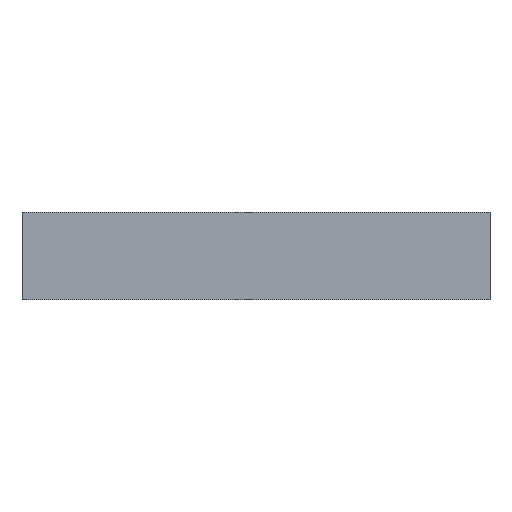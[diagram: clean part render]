
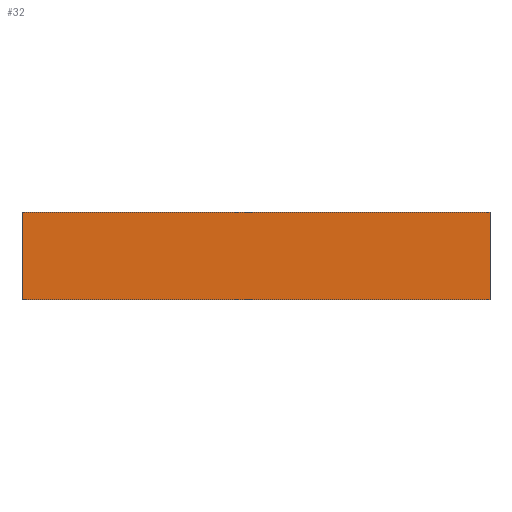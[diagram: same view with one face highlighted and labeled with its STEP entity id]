
A CAD part, front view. The second image highlights one B-rep face of the part: STEP entity #32.
In plain terms, the highlighted planar face has unit normal (0, -1, 0).
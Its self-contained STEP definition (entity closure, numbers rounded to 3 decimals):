
#32=ADVANCED_FACE('',(#46),#510,.T.);
#46=FACE_OUTER_BOUND('',#60,.T.);
#60=EDGE_LOOP('',(#82,#83,#84,#85));
#82=ORIENTED_EDGE('',*,*,#374,.T.);
#83=ORIENTED_EDGE('',*,*,#375,.T.);
#84=ORIENTED_EDGE('',*,*,#376,.T.);
#85=ORIENTED_EDGE('',*,*,#377,.T.);
#194=PCURVE('',#510,#266);
#195=PCURVE('',#510,#267);
#196=PCURVE('',#510,#268);
#197=PCURVE('',#510,#269);
#201=PCURVE('',#511,#273);
#207=PCURVE('',#513,#279);
#229=PCURVE('',#514,#301);
#238=PCURVE('',#515,#310);
#266=DEFINITIONAL_REPRESENTATION('',(#411),#1041);
#267=DEFINITIONAL_REPRESENTATION('',(#413),#1041);
#268=DEFINITIONAL_REPRESENTATION('',(#415),#1041);
#269=DEFINITIONAL_REPRESENTATION('',(#417),#1041);
#273=DEFINITIONAL_REPRESENTATION('',(#424),#1041);
#279=DEFINITIONAL_REPRESENTATION('',(#434),#1041);
#301=DEFINITIONAL_REPRESENTATION('',(#457),#1041);
#310=DEFINITIONAL_REPRESENTATION('',(#458),#1041);
#338=SURFACE_CURVE('',#410,(#194,#229),.PCURVE_S1.);
#339=SURFACE_CURVE('',#412,(#195,#201),.PCURVE_S1.);
#340=SURFACE_CURVE('',#414,(#196,#238),.PCURVE_S1.);
#341=SURFACE_CURVE('',#416,(#197,#207),.PCURVE_S1.);
#374=EDGE_CURVE('',#478,#479,#338,.T.);
#375=EDGE_CURVE('',#479,#480,#339,.T.);
#376=EDGE_CURVE('',#480,#481,#340,.T.);
#377=EDGE_CURVE('',#481,#478,#341,.T.);
#410=B_SPLINE_CURVE_WITH_KNOTS('',1,(#728,#729),.UNSPECIFIED.,.F.,.F.,(2,
2),(-142.,-108.),.UNSPECIFIED.);
#411=B_SPLINE_CURVE_WITH_KNOTS('',1,(#730,#731),.UNSPECIFIED.,.F.,.F.,(2,
2),(-142.,-108.),.UNSPECIFIED.);
#412=B_SPLINE_CURVE_WITH_KNOTS('',1,(#732,#733),.UNSPECIFIED.,.F.,.F.,(2,
2),(0.,6.),.UNSPECIFIED.);
#413=B_SPLINE_CURVE_WITH_KNOTS('',1,(#734,#735),.UNSPECIFIED.,.F.,.F.,(2,
2),(0.,6.),.UNSPECIFIED.);
#414=B_SPLINE_CURVE_WITH_KNOTS('',1,(#736,#737),.UNSPECIFIED.,.F.,.F.,(2,
2),(108.,142.),.UNSPECIFIED.);
#415=B_SPLINE_CURVE_WITH_KNOTS('',1,(#738,#739),.UNSPECIFIED.,.F.,.F.,(2,
2),(108.,142.),.UNSPECIFIED.);
#416=B_SPLINE_CURVE_WITH_KNOTS('',1,(#740,#741),.UNSPECIFIED.,.F.,.F.,(2,
2),(-6.,0.),.UNSPECIFIED.);
#417=B_SPLINE_CURVE_WITH_KNOTS('',1,(#742,#743),.UNSPECIFIED.,.F.,.F.,(2,
2),(-6.,0.),.UNSPECIFIED.);
#424=B_SPLINE_CURVE_WITH_KNOTS('',1,(#756,#757),.UNSPECIFIED.,.F.,.F.,(2,
2),(0.,6.),.UNSPECIFIED.);
#434=B_SPLINE_CURVE_WITH_KNOTS('',1,(#776,#777),.UNSPECIFIED.,.F.,.F.,(2,
2),(-6.,0.),.UNSPECIFIED.);
#457=B_SPLINE_CURVE_WITH_KNOTS('',1,(#878,#879),.UNSPECIFIED.,.F.,.F.,(2,
2),(-142.,-108.),.UNSPECIFIED.);
#458=B_SPLINE_CURVE_WITH_KNOTS('',1,(#940,#941),.UNSPECIFIED.,.F.,.F.,(2,
2),(108.,142.),.UNSPECIFIED.);
#478=VERTEX_POINT('',#704);
#479=VERTEX_POINT('',#705);
#480=VERTEX_POINT('',#706);
#481=VERTEX_POINT('',#707);
#510=PLANE('',#536);
#511=PLANE('',#537);
#513=PLANE('',#539);
#514=PLANE('',#540);
#515=PLANE('',#541);
#536=AXIS2_PLACEMENT_3D('',#554,#545,$);
#537=AXIS2_PLACEMENT_3D('',#555,#546,$);
#539=AXIS2_PLACEMENT_3D('',#557,#548,$);
#540=AXIS2_PLACEMENT_3D('',#630,#549,$);
#541=AXIS2_PLACEMENT_3D('',#631,#550,$);
#545=DIRECTION('',(0.,-1.,0.));
#546=DIRECTION('',(1.,0.,0.));
#548=DIRECTION('',(-1.,0.,0.));
#549=DIRECTION('',(0.,0.,-1.));
#550=DIRECTION('',(0.,0.,1.));
#554=CARTESIAN_POINT('',(651.,58.,24.));
#555=CARTESIAN_POINT('',(683.,58.,24.));
#557=CARTESIAN_POINT('',(651.,95.,24.));
#630=CARTESIAN_POINT('',(651.,58.,24.));
#631=CARTESIAN_POINT('',(651.,58.,30.));
#704=CARTESIAN_POINT('',(651.,58.,24.));
#705=CARTESIAN_POINT('',(683.,58.,24.));
#706=CARTESIAN_POINT('',(683.,58.,30.));
#707=CARTESIAN_POINT('',(651.,58.,30.));
#728=CARTESIAN_POINT('',(651.,58.,24.));
#729=CARTESIAN_POINT('',(683.,58.,24.));
#730=CARTESIAN_POINT('',(-142.,0.));
#731=CARTESIAN_POINT('',(-108.,0.));
#732=CARTESIAN_POINT('',(683.,58.,24.));
#733=CARTESIAN_POINT('',(683.,58.,30.));
#734=CARTESIAN_POINT('',(-108.,0.));
#735=CARTESIAN_POINT('',(-108.,6.));
#736=CARTESIAN_POINT('',(683.,58.,30.));
#737=CARTESIAN_POINT('',(651.,58.,30.));
#738=CARTESIAN_POINT('',(-108.,6.));
#739=CARTESIAN_POINT('',(-142.,6.));
#740=CARTESIAN_POINT('',(651.,58.,30.));
#741=CARTESIAN_POINT('',(651.,58.,24.));
#742=CARTESIAN_POINT('',(-142.,6.));
#743=CARTESIAN_POINT('',(-142.,0.));
#756=CARTESIAN_POINT('',(-108.,0.));
#757=CARTESIAN_POINT('',(-108.,6.));
#776=CARTESIAN_POINT('',(0.,6.));
#777=CARTESIAN_POINT('',(0.,0.));
#878=CARTESIAN_POINT('',(-7.,-28.5));
#879=CARTESIAN_POINT('',(-7.,3.5));
#940=CARTESIAN_POINT('',(3.5,-7.));
#941=CARTESIAN_POINT('',(-28.5,-7.));
#1041=(
GEOMETRIC_REPRESENTATION_CONTEXT(2)
PARAMETRIC_REPRESENTATION_CONTEXT()
REPRESENTATION_CONTEXT('pspace','')
);
